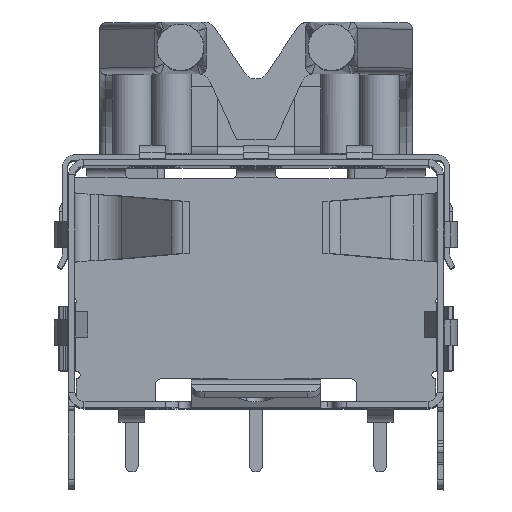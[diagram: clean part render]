
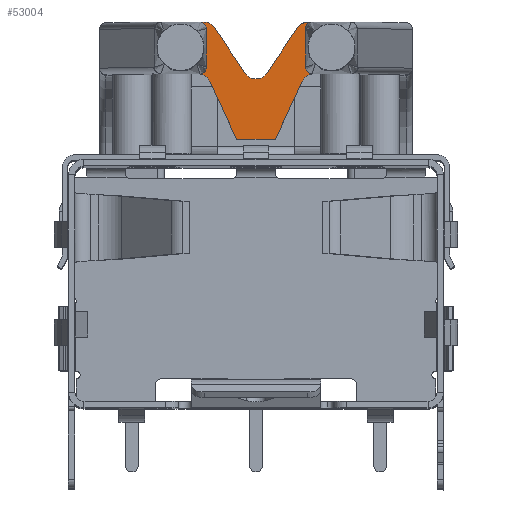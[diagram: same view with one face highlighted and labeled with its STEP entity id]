
A CAD part, top view. The second image highlights one B-rep face of the part: STEP entity #53004.
In plain terms, the highlighted planar face has unit normal (0, 0, -1).
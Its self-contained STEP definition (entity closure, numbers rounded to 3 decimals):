
#49496=CARTESIAN_POINT('',(2.24,7.64,-16.64));
#49497=DIRECTION('',(0.,0.,-1.));
#49498=DIRECTION('',(-0.908,0.42,0.));
#49499=AXIS2_PLACEMENT_3D('',#49496,#49497,#49498);
#49504=CARTESIAN_POINT('',(2.24,8.14,-16.64));
#49505=CARTESIAN_POINT('',(2.208,8.142,-16.64));
#49506=CARTESIAN_POINT('',(2.149,8.157,-16.64));
#49507=CARTESIAN_POINT('',(2.067,8.215,-16.64));
#49508=CARTESIAN_POINT('',(2.016,8.299,-16.64));
#49509=CARTESIAN_POINT('',(2.004,8.358,-16.64));
#49510=CARTESIAN_POINT('',(2.004,8.39,-16.64));
#49515=CARTESIAN_POINT('',(2.004,9.89,-16.64));
#49516=CARTESIAN_POINT('',(2.004,9.973,-16.64));
#49517=CARTESIAN_POINT('',(2.068,10.077,-16.64));
#49518=CARTESIAN_POINT('',(2.172,10.14,-16.64));
#49519=CARTESIAN_POINT('',(2.255,10.14,-16.64));
#49524=DIRECTION('',(-1.,0.,
0.));
#49525=VECTOR('',#49524,0.245);
#49526=CARTESIAN_POINT('',(2.255,10.14,-16.64));
#49527=LINE('',#49526,#49525);
#49531=CARTESIAN_POINT('',(2.01,10.14,-16.64));
#49532=CARTESIAN_POINT('',(1.956,10.138,-16.64));
#49533=CARTESIAN_POINT('',(1.845,10.12,-16.64));
#49534=CARTESIAN_POINT('',(1.703,10.041,-16.64));
#49535=CARTESIAN_POINT('',(1.632,9.964,-16.64));
#49536=CARTESIAN_POINT('',(1.601,9.92,-16.64));
#49541=DIRECTION('',(-0.559,-0.829,0.));
#49542=VECTOR('',#49541,2.122);
#49543=CARTESIAN_POINT('',(1.601,9.92,-16.64));
#49544=LINE('',#49543,#49542);
#49548=CARTESIAN_POINT('',(0.,8.44,-16.64));
#49549=DIRECTION('',(0.,0.,-1.));
#49550=DIRECTION('',(0.829,-0.559,0.));
#49551=AXIS2_PLACEMENT_3D('',#49548,#49549,#49550);
#49556=DIRECTION('',(-0.559,0.829,0.));
#49557=VECTOR('',#49556,2.122);
#49558=CARTESIAN_POINT('',(-0.415,8.16,-16.64));
#49559=LINE('',#49558,#49557);
#49563=CARTESIAN_POINT('',(-1.601,9.92,-16.64));
#49564=CARTESIAN_POINT('',(-1.632,9.965,-16.64));
#49565=CARTESIAN_POINT('',(-1.703,10.041,-16.64));
#49566=CARTESIAN_POINT('',(-1.846,10.12,-16.64));
#49567=CARTESIAN_POINT('',(-1.954,10.139,-16.64));
#49568=CARTESIAN_POINT('',(-2.008,10.14,-16.64));
#49573=DIRECTION('',(-1.,0.,0.));
#49574=VECTOR('',#49573,0.247);
#49575=CARTESIAN_POINT('',(-2.008,10.14,-16.64));
#49576=LINE('',#49575,#49574);
#49580=CARTESIAN_POINT('',(-2.255,10.14,-16.64));
#49581=CARTESIAN_POINT('',(-2.172,10.14,-16.64));
#49582=CARTESIAN_POINT('',(-2.068,10.077,-16.64));
#49583=CARTESIAN_POINT('',(-2.004,9.973,-16.64));
#49584=CARTESIAN_POINT('',(-2.004,9.89,-16.64));
#49589=DIRECTION('',(0.,-1.,0.));
#49590=VECTOR('',#49589,1.5);
#49591=CARTESIAN_POINT('',(-2.004,9.89,-16.64));
#49592=LINE('',#49591,#49590);
#49596=CARTESIAN_POINT('',(-2.004,8.39,-16.64));
#49597=CARTESIAN_POINT('',(-2.004,8.358,-16.64));
#49598=CARTESIAN_POINT('',(-2.016,8.299,-16.64));
#49599=CARTESIAN_POINT('',(-2.068,8.214,-16.64));
#49600=CARTESIAN_POINT('',(-2.15,8.157,-16.64));
#49601=CARTESIAN_POINT('',(-2.208,8.142,-16.64));
#49602=CARTESIAN_POINT('',(-2.24,8.14,-16.64));
#49607=CARTESIAN_POINT('',(-2.24,7.64,-16.64));
#49608=DIRECTION('',(0.,0.,-1.));
#49609=DIRECTION('',(-0.002,1.,0.));
#49610=AXIS2_PLACEMENT_3D('',#49607,#49608,#49609);
#49615=DIRECTION('',(0.42,-0.908,0.));
#49616=VECTOR('',#49615,2.469);
#49617=CARTESIAN_POINT('',(-1.786,7.85,-16.64));
#49618=LINE('',#49617,#49616);
#49622=DIRECTION('',(0.42,0.908,0.));
#49623=VECTOR('',#49622,2.469);
#49624=CARTESIAN_POINT('',(0.75,5.609,-16.64));
#49625=LINE('',#49624,#49623);
#49654=DIRECTION('',(0.,-1.,0.));
#49655=VECTOR('',#49654,1.5);
#49656=CARTESIAN_POINT('',(2.004,9.89,-16.64));
#49657=LINE('',#49656,#49655);
#50351=DIRECTION('',(-1.,0.,0.));
#50352=VECTOR('',#50351,1.5);
#50353=CARTESIAN_POINT('',(0.75,5.609,-16.64));
#50354=LINE('',#50353,#50352);
#52095=VERTEX_POINT('',#49531);
#52096=VERTEX_POINT('',#49536);
#52222=CARTESIAN_POINT('',(2.24,8.14,-16.64));
#52224=VERTEX_POINT('',#52222);
#52254=CARTESIAN_POINT('',(-2.24,8.14,-16.64));
#52256=VERTEX_POINT('',#52254);
#52336=CARTESIAN_POINT('',(-2.008,10.14,-16.64));
#52337=VERTEX_POINT('',#52336);
#52338=CARTESIAN_POINT('',(-2.255,10.14,-16.64));
#52339=VERTEX_POINT('',#52338);
#52350=CARTESIAN_POINT('',(2.255,10.14,-16.64));
#52351=VERTEX_POINT('',#52350);
#52464=CARTESIAN_POINT('',(-2.004,8.39,-16.64));
#52466=VERTEX_POINT('',#52464);
#52468=CARTESIAN_POINT('',(-2.004,9.89,-16.64));
#52469=VERTEX_POINT('',#52468);
#52513=CARTESIAN_POINT('',(-1.786,7.85,-16.64));
#52514=VERTEX_POINT('',#52513);
#52515=CARTESIAN_POINT('',(1.786,7.85,-16.64));
#52516=VERTEX_POINT('',#52515);
#52517=CARTESIAN_POINT('',(0.75,5.609,-16.64));
#52518=VERTEX_POINT('',#52517);
#52519=CARTESIAN_POINT('',(-0.75,5.609,-16.64));
#52520=VERTEX_POINT('',#52519);
#52521=VERTEX_POINT('',#49563);
#52522=CARTESIAN_POINT('',(-0.415,8.16,-16.64));
#52523=VERTEX_POINT('',#52522);
#52524=CARTESIAN_POINT('',(0.415,8.16,-16.64));
#52525=VERTEX_POINT('',#52524);
#52526=VERTEX_POINT('',#49515);
#52527=CARTESIAN_POINT('',(2.004,8.39,-16.64));
#52528=VERTEX_POINT('',#52527);
#52962=CARTESIAN_POINT('',(0.,7.875,-16.64));
#52963=DIRECTION('',(0.,0.,1.));
#52964=DIRECTION('',(0.,1.,0.));
#52965=AXIS2_PLACEMENT_3D('',#52962,#52963,#52964);
#52966=PLANE('',#52965);
#52967=ORIENTED_EDGE('',*,*,#52953,.T.);
#52969=ORIENTED_EDGE('',*,*,#52968,.T.);
#52971=ORIENTED_EDGE('',*,*,#52970,.F.);
#52973=ORIENTED_EDGE('',*,*,#52972,.T.);
#52975=ORIENTED_EDGE('',*,*,#52974,.T.);
#52977=ORIENTED_EDGE('',*,*,#52976,.T.);
#52979=ORIENTED_EDGE('',*,*,#52978,.T.);
#52981=ORIENTED_EDGE('',*,*,#52980,.T.);
#52983=ORIENTED_EDGE('',*,*,#52982,.T.);
#52985=ORIENTED_EDGE('',*,*,#52984,.T.);
#52987=ORIENTED_EDGE('',*,*,#52986,.T.);
#52989=ORIENTED_EDGE('',*,*,#52988,.T.);
#52991=ORIENTED_EDGE('',*,*,#52990,.T.);
#52993=ORIENTED_EDGE('',*,*,#52992,.T.);
#52995=ORIENTED_EDGE('',*,*,#52994,.T.);
#52997=ORIENTED_EDGE('',*,*,#52996,.T.);
#52999=ORIENTED_EDGE('',*,*,#52998,.F.);
#53001=ORIENTED_EDGE('',*,*,#53000,.T.);
#53002=EDGE_LOOP('',(#52967,#52969,#52971,#52973,#52975,#52977,#52979,#52981,
#52983,#52985,#52987,#52989,#52991,#52993,#52995,#52997,#52999,#53001));
#53003=FACE_OUTER_BOUND('',#53002,.F.);
#49500=CIRCLE('',#49499,0.5);
#49511=B_SPLINE_CURVE_WITH_KNOTS('',3,(#49504,#49505,#49506,#49507,#49508,
#49509,#49510),.UNSPECIFIED.,.F.,.F.,(4,1,1,1,4),(0.,0.25,0.5,0.75,
1.),.UNSPECIFIED.);
#49520=B_SPLINE_CURVE_WITH_KNOTS('',3,(#49515,#49516,#49517,#49518,#49519),
.UNSPECIFIED.,.F.,.F.,(4,1,4),(0.,0.5,1.),.UNSPECIFIED.);
#49537=B_SPLINE_CURVE_WITH_KNOTS('',3,(#49531,#49532,#49533,#49534,#49535,
#49536),.UNSPECIFIED.,.F.,.F.,(4,1,1,4),(0.,0.333,
0.667,1.),.UNSPECIFIED.);
#49552=CIRCLE('',#49551,0.5);
#49569=B_SPLINE_CURVE_WITH_KNOTS('',3,(#49563,#49564,#49565,#49566,#49567,
#49568),.UNSPECIFIED.,.F.,.F.,(4,1,1,4),(0.,0.333,
0.667,1.),.UNSPECIFIED.);
#49585=B_SPLINE_CURVE_WITH_KNOTS('',3,(#49580,#49581,#49582,#49583,#49584),
.UNSPECIFIED.,.F.,.F.,(4,1,4),(0.,0.5,1.),.UNSPECIFIED.);
#49603=B_SPLINE_CURVE_WITH_KNOTS('',3,(#49596,#49597,#49598,#49599,#49600,
#49601,#49602),.UNSPECIFIED.,.F.,.F.,(4,1,1,1,4),(0.,0.25,0.5,0.75,
1.),.UNSPECIFIED.);
#49611=CIRCLE('',#49610,0.5);
#52953=EDGE_CURVE('',#52516,#52224,#49500,.T.);
#52968=EDGE_CURVE('',#52224,#52528,#49511,.T.);
#52970=EDGE_CURVE('',#52526,#52528,#49657,.T.);
#52972=EDGE_CURVE('',#52526,#52351,#49520,.T.);
#52974=EDGE_CURVE('',#52351,#52095,#49527,.T.);
#52976=EDGE_CURVE('',#52095,#52096,#49537,.T.);
#52978=EDGE_CURVE('',#52096,#52525,#49544,.T.);
#52980=EDGE_CURVE('',#52525,#52523,#49552,.T.);
#52982=EDGE_CURVE('',#52523,#52521,#49559,.T.);
#52984=EDGE_CURVE('',#52521,#52337,#49569,.T.);
#52986=EDGE_CURVE('',#52337,#52339,#49576,.T.);
#52988=EDGE_CURVE('',#52339,#52469,#49585,.T.);
#52990=EDGE_CURVE('',#52469,#52466,#49592,.T.);
#52992=EDGE_CURVE('',#52466,#52256,#49603,.T.);
#52994=EDGE_CURVE('',#52256,#52514,#49611,.T.);
#52996=EDGE_CURVE('',#52514,#52520,#49618,.T.);
#52998=EDGE_CURVE('',#52518,#52520,#50354,.T.);
#53000=EDGE_CURVE('',#52518,#52516,#49625,.T.);
#53004=ADVANCED_FACE('',(#53003),#52966,.F.);
